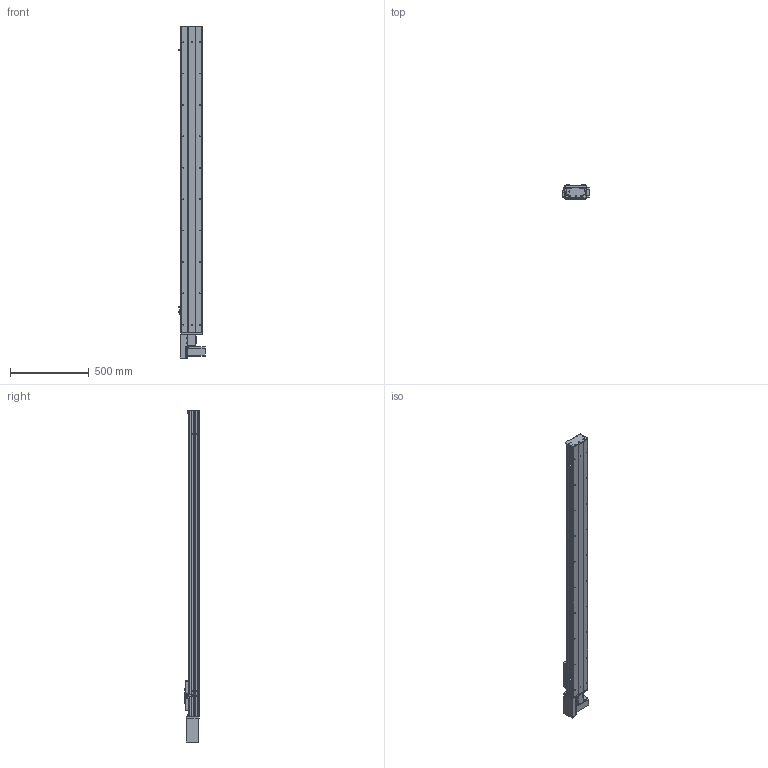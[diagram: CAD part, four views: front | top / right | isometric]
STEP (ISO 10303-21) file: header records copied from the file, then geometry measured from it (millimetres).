
FILE_DESCRIPTION (( 'STEP AP203' ), '1' );
FILE_NAME ('Y135CB-D90-S1650-BR-P400W.STEP', '2020-02-18T02:46:57', ( '微软用户' ), ( '微软中国' ), 'SwSTEP 2.0', 'SolidWorks 2017', '' );
FILE_SCHEMA (( 'CONFIG_CONTROL_DESIGN' ));
Length unit declared in the file: millimetre
Products named in the file (18): C-雄赽釱--; 0B-萇儂楊擘啣; Y10B--々湍喘謫眊--666; san松下电机400不带刹车----; Y135CB-耜裔; Y135CB-D90-S1650-BR-P400W; 5CB --掛极耜裔啣-; 135CB---遴掛极.-; C-詩湍揤踡え-陔; 35CB---喘謫眊楊擘啣; 135CB--詩湍-CE; Y10B-耜蚾蟀諉啣----; Y100-135俋离換覜ん--; Y俋欶BR----; Y135C-陔俋离換覜結え-; 0B-埴倛裔啣; 5C--俋欶; 0B-源倛裔啣
Assembly tree (21 placements, depth 2):
  Y135CB-D90-S1650-BR-P400W
    Y135CB-耜裔
    135CB---遴掛极.-
    35CB---喘謫眊楊擘啣
    Y10B-耜蚾蟀諉啣----
    Y俋欶BR----
    0B-埴倛裔啣
    0B-源倛裔啣
    0B-萇儂楊擘啣
    san松下电机400不带刹车----
    5CB --掛极耜裔啣-  x2
    C-詩湍揤踡え-陔  x2
    135CB--詩湍-CE
    Y100-135俋离換覜ん--  x3
    Y135C-陔俋离換覜結え-
    5C--俋欶
    C-雄赽釱--
    Y10B--々湍喘謫眊--666
Bounding box: 167.5 x 91 x 2114.5 mm (x, y, z)
Volume: 6075351.6 mm3; surface area: 2394939 mm2
Topology: 21 solids, 21 shells, 957 faces, 2581 edges, 1710 vertices
Faces by surface type: cylinder 483, plane 458, cone 16
Entity records: 29947 total; most frequent: DIRECTION 4973, CARTESIAN_POINT 4944, ORIENTED_EDGE 4638, EDGE_CURVE 2319, AXIS2_PLACEMENT_3D 1815, VERTEX_POINT 1538, LINE 1343, VECTOR 1343
